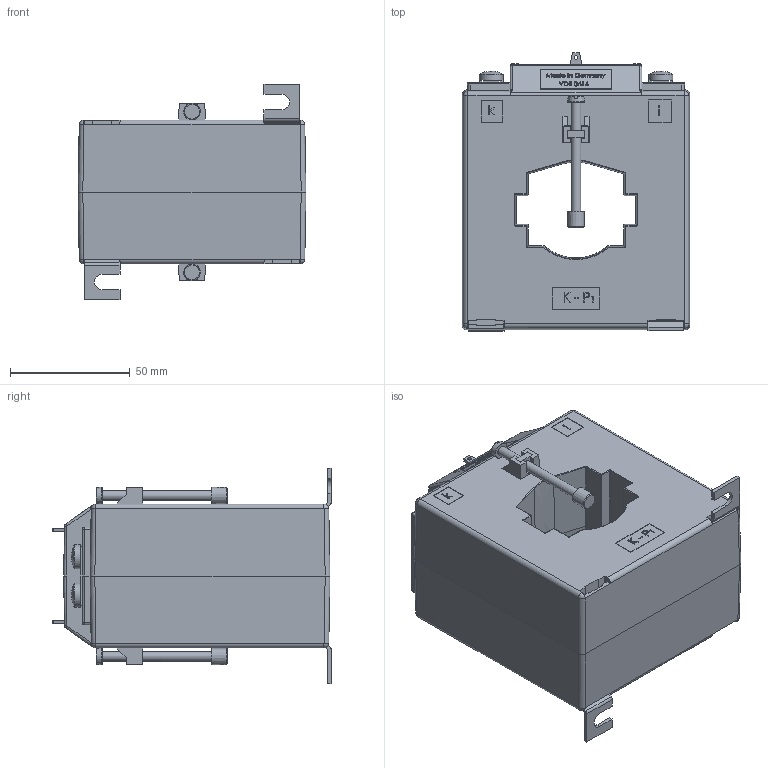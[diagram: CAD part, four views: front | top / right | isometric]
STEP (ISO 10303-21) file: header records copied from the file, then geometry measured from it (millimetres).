
FILE_DESCRIPTION(/* description */ (''),/* implementation_level */ '2;1');
FILE_NAME(/* name */ 'ASK51.6.stp',/* time_stamp */ '2024-03-04T12:52:58+01:00',/* author */ ('JDI'),/* organization */ (''),/* preprocessor_version */ 'ST-DEVELOPER v19.2',/* originating_system */ 'Autodesk Inventor 2023',/* authorisation */ '');
FILE_SCHEMA (('AUTOMOTIVE_DESIGN { 1 0 10303 214 3 1 1 }'));
Products named in the file (1): ASK51.6
Bounding box: 95 x 116 x 90 mm (x, y, z)
Volume: 500368.5 mm3; surface area: 59452.1 mm2
Topology: 3 solids, 3 shells, 1397 faces, 3626 edges, 2287 vertices
Faces by surface type: plane 925, bspline 266, cylinder 140, sphere 32, torus 18, cone 16
Full cylindrical faces by diameter (mm): 1.6 x2, 4 x4, 4.1 x2, 10 x4
Entity records: 55251 total; most frequent: CARTESIAN_POINT 21221, ORIENTED_EDGE 7228, DIRECTION 5951, EDGE_CURVE 3614, LINE 2605, VECTOR 2605, VERTEX_POINT 2287, AXIS2_PLACEMENT_3D 1673
